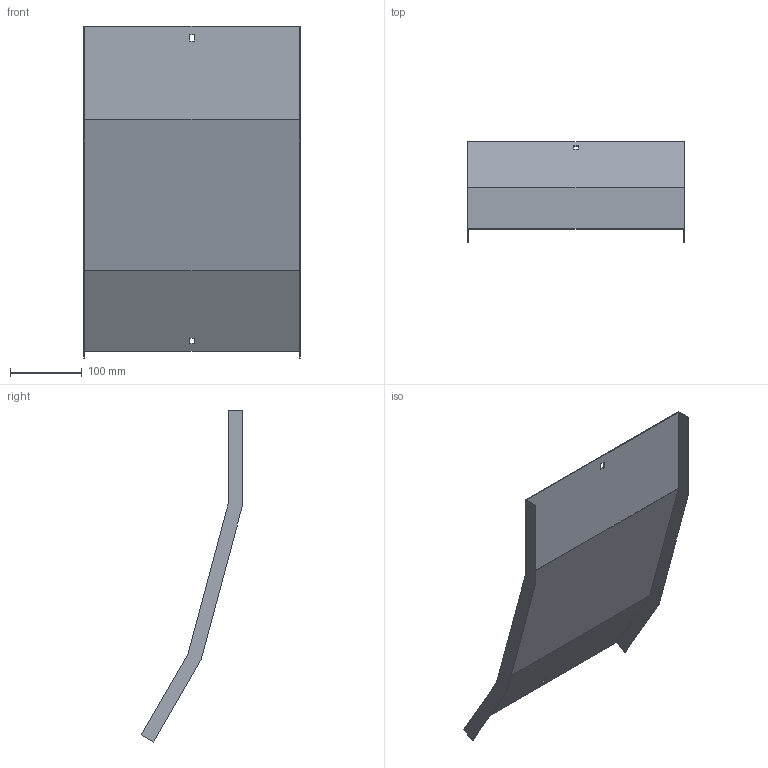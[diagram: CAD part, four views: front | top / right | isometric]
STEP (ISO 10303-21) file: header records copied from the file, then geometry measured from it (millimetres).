
FILE_DESCRIPTION (( 'STEP AP214' ), '1' );
FILE_NAME ('32N5R300_H150.step', '2025-02-21T14:28:05', ( '' ), ( '' ), 'SwSTEP 2.0', 'SolidWorks 2023', '' );
FILE_SCHEMA (( 'AUTOMOTIVE_DESIGN' ));
Length unit declared in the file: millimetre
Products named in the file (1): 32N5R300_H150
Bounding box: 303 x 141.68 x 464.12 mm (x, y, z)
Volume: 244608.2 mm3; surface area: 328724.7 mm2
Topology: 1 solids, 1 shells, 26 faces, 72 edges, 48 vertices
Faces by surface type: plane 26
Entity records: 847 total; most frequent: CARTESIAN_POINT 147, ORIENTED_EDGE 144, DIRECTION 126, LINE 72, EDGE_CURVE 72, VECTOR 72, VERTEX_POINT 48, EDGE_LOOP 30
